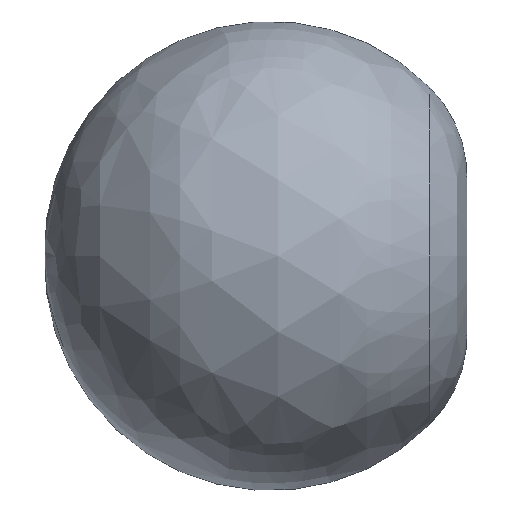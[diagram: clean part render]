
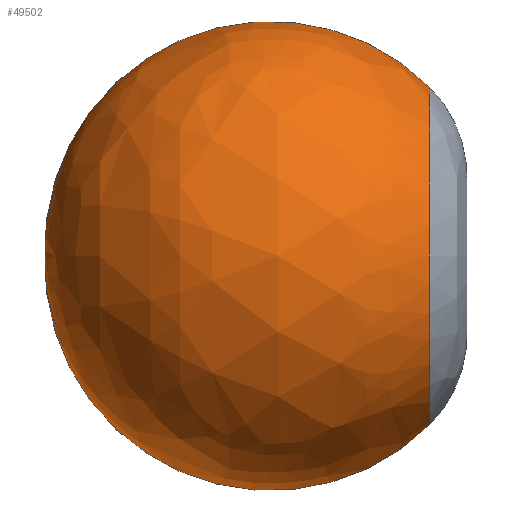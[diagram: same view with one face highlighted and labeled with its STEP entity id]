
A CAD part, left-side view. The second image highlights one B-rep face of the part: STEP entity #49502.
In plain terms, the highlighted free-form (B-spline) face has degree [3, 3] with [4, 4] control points.
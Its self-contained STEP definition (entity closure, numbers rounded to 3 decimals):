
#240 = CIRCLE ( 'NONE', #204466, 1230.887 ) ;
#2076 = VERTEX_POINT ( 'NONE', #46850 ) ;
#9599 = EDGE_CURVE ( 'NONE', #79575, #2076, #20050, .T. ) ;
#11325 = EDGE_LOOP ( 'NONE', ( #137324, #168610, #118424 ) ) ;
#16819 = CARTESIAN_POINT ( 'NONE',  ( -3717.751, 548.138, 1858.876 ) ) ;
#20050 = CIRCLE ( 'NONE', #54154, 1230.887 ) ;
#21014 = DIRECTION ( 'NONE',  ( 0., 0., -1. ) ) ;
#25502 = DIRECTION ( 'NONE',  ( 1., 0., 0. ) ) ;
#38736 = CARTESIAN_POINT ( 'NONE',  ( -3717.751, 548.138, -1858.876 ) ) ;
#43187 = CARTESIAN_POINT ( 'NONE',  ( 0., 1709.871, 0. ) ) ;
#46850 = CARTESIAN_POINT ( 'NONE',  ( 0., 1709.871, 0. ) ) ;
#49502 = ADVANCED_FACE ( 'NONE', ( #73684 ), #68402, .T. ) ;
#54154 = AXIS2_PLACEMENT_3D ( 'NONE', #178835, #155787, #74326 ) ;
#68402 =( BOUNDED_SURFACE ( )  B_SPLINE_SURFACE ( 3, 3, ( 
 ( #245474, #170756, #200437, #330257 ),
 ( #172975, #16819, #38736, #326883 ),
 ( #195979, #198218, #276394, #171864 ),
 ( #174110, #120105, #43187, #224603 ) ),
 .UNSPECIFIED., .F., .F., .F. ) 
 B_SPLINE_SURFACE_WITH_KNOTS ( ( 4, 4 ),
 ( 4, 4 ),
 ( 0., 1. ),
 ( 0., 1. ),
 .UNSPECIFIED. ) 
 GEOMETRIC_REPRESENTATION_ITEM ( )  RATIONAL_B_SPLINE_SURFACE ( (
 ( 1., 0.333, 0.333, 1.),
 ( 0.576, 0.192, 0.192, 0.576),
 ( 0.576, 0.192, 0.192, 0.576),
 ( 1., 0.333, 0.333, 1.) ) ) 
 REPRESENTATION_ITEM ( '' )  SURFACE ( )  );
#73684 = FACE_OUTER_BOUND ( 'NONE', #11325, .T. ) ;
#74326 = DIRECTION ( 'NONE',  ( 0., 0., 1. ) ) ;
#79575 = VERTEX_POINT ( 'NONE', #283736 ) ;
#112442 = CARTESIAN_POINT ( 'NONE',  ( 0., -390.369, 0. ) ) ;
#118424 = ORIENTED_EDGE ( 'NONE', *, *, #121631, .F. ) ;
#120105 = CARTESIAN_POINT ( 'NONE',  ( 0., 1709.871, 0. ) ) ;
#121631 = EDGE_CURVE ( 'NONE', #177596, #2076, #240, .T. ) ;
#137324 = ORIENTED_EDGE ( 'NONE', *, *, #192773, .T. ) ;
#138859 = DIRECTION ( 'NONE',  ( 0., 0., -1. ) ) ;
#155787 = DIRECTION ( 'NONE',  ( -1., 0., 0. ) ) ;
#164918 = CARTESIAN_POINT ( 'NONE',  ( 0., -390.369, -920.369 ) ) ;
#168610 = ORIENTED_EDGE ( 'NONE', *, *, #9599, .T. ) ;
#170756 = CARTESIAN_POINT ( 'NONE',  ( -1840.737, -390.369, 920.369 ) ) ;
#171864 = CARTESIAN_POINT ( 'NONE',  ( 0., 1763.786, -1326.154 ) ) ;
#172975 = CARTESIAN_POINT ( 'NONE',  ( 0., 548.138, 1858.876 ) ) ;
#174110 = CARTESIAN_POINT ( 'NONE',  ( 0., 1709.871, 0. ) ) ;
#177596 = VERTEX_POINT ( 'NONE', #164918 ) ;
#178835 = CARTESIAN_POINT ( 'NONE',  ( 0., 480., 50. ) ) ;
#192773 = EDGE_CURVE ( 'NONE', #177596, #79575, #289347, .T. ) ;
#195979 = CARTESIAN_POINT ( 'NONE',  ( 0., 1763.786, 1326.154 ) ) ;
#198218 = CARTESIAN_POINT ( 'NONE',  ( -2652.308, 1763.786, 1326.154 ) ) ;
#200437 = CARTESIAN_POINT ( 'NONE',  ( -1840.737, -390.369, -920.369 ) ) ;
#204466 = AXIS2_PLACEMENT_3D ( 'NONE', #282861, #25502, #21014 ) ;
#224603 = CARTESIAN_POINT ( 'NONE',  ( 0., 1709.871, 0. ) ) ;
#245474 = CARTESIAN_POINT ( 'NONE',  ( 0., -390.369, 920.369 ) ) ;
#267572 = AXIS2_PLACEMENT_3D ( 'NONE', #112442, #269868, #138859 ) ;
#269868 = DIRECTION ( 'NONE',  ( 0., 1., 0. ) ) ;
#276394 = CARTESIAN_POINT ( 'NONE',  ( -2652.308, 1763.786, -1326.154 ) ) ;
#282861 = CARTESIAN_POINT ( 'NONE',  ( 0., 480., -50. ) ) ;
#283736 = CARTESIAN_POINT ( 'NONE',  ( 0., -390.369, 920.369 ) ) ;
#289347 = CIRCLE ( 'NONE', #267572, 920.369 ) ;
#326883 = CARTESIAN_POINT ( 'NONE',  ( 0., 548.138, -1858.876 ) ) ;
#330257 = CARTESIAN_POINT ( 'NONE',  ( 0., -390.369, -920.369 ) ) ;
